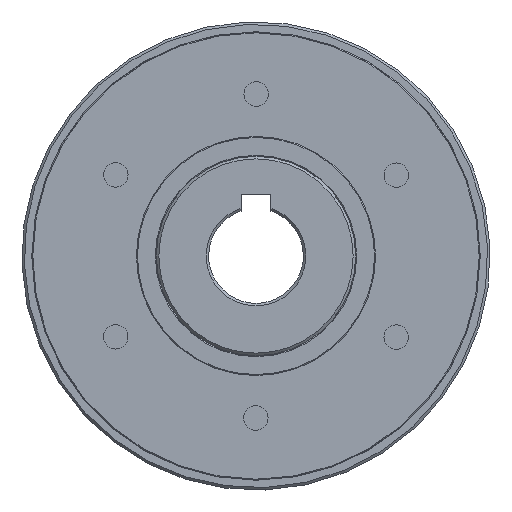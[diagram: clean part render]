
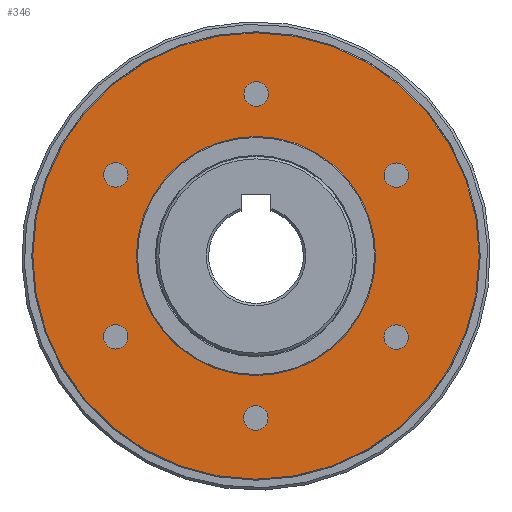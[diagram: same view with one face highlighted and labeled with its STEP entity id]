
A CAD part, left-side view. The second image highlights one B-rep face of the part: STEP entity #346.
In plain terms, the highlighted planar face has unit normal (-1, 0, 0).
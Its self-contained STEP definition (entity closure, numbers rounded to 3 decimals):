
#346 = ADVANCED_FACE( '', ( #715, #716, #717, #718, #719, #720, #721, #722 ), #723, .T. );
#715 = FACE_BOUND( '', #1119, .T. );
#716 = FACE_BOUND( '', #1120, .T. );
#717 = FACE_BOUND( '', #1121, .T. );
#718 = FACE_BOUND( '', #1122, .T. );
#719 = FACE_BOUND( '', #1123, .T. );
#720 = FACE_BOUND( '', #1124, .T. );
#721 = FACE_OUTER_BOUND( '', #1125, .T. );
#722 = FACE_BOUND( '', #1126, .T. );
#723 = PLANE( '', #1127 );
#1119 = EDGE_LOOP( '', ( #1621 ) );
#1120 = EDGE_LOOP( '', ( #1622 ) );
#1121 = EDGE_LOOP( '', ( #1623 ) );
#1122 = EDGE_LOOP( '', ( #1624 ) );
#1123 = EDGE_LOOP( '', ( #1625 ) );
#1124 = EDGE_LOOP( '', ( #1626 ) );
#1125 = EDGE_LOOP( '', ( #1627 ) );
#1126 = EDGE_LOOP( '', ( #1628 ) );
#1127 = AXIS2_PLACEMENT_3D( '', #1629, #1630, #1631 );
#1621 = ORIENTED_EDGE( '', *, *, #1958, .T. );
#1622 = ORIENTED_EDGE( '', *, *, #2005, .T. );
#1623 = ORIENTED_EDGE( '', *, *, #1952, .T. );
#1624 = ORIENTED_EDGE( '', *, *, #1918, .T. );
#1625 = ORIENTED_EDGE( '', *, *, #2006, .T. );
#1626 = ORIENTED_EDGE( '', *, *, #1978, .T. );
#1627 = ORIENTED_EDGE( '', *, *, #2007, .T. );
#1628 = ORIENTED_EDGE( '', *, *, #1981, .F. );
#1629 = CARTESIAN_POINT( '', ( 18.5, 0., 24. ) );
#1630 = DIRECTION( '', ( -1., 0., 0. ) );
#1631 = DIRECTION( '', ( 0., 0., 1. ) );
#1918 = EDGE_CURVE( '', #2163, #2163, #2164, .T. );
#1952 = EDGE_CURVE( '', #2215, #2215, #2216, .T. );
#1958 = EDGE_CURVE( '', #2224, #2224, #2225, .T. );
#1978 = EDGE_CURVE( '', #2254, #2254, #2255, .T. );
#1981 = EDGE_CURVE( '', #2259, #2259, #2260, .T. );
#2005 = EDGE_CURVE( '', #2294, #2294, #2295, .T. );
#2006 = EDGE_CURVE( '', #2296, #2296, #2297, .T. );
#2007 = EDGE_CURVE( '', #2298, #2298, #2299, .T. );
#2163 = VERTEX_POINT( '', #2660 );
#2164 = CIRCLE( '', #2661, 2.459 );
#2215 = VERTEX_POINT( '', #2715 );
#2216 = CIRCLE( '', #2716, 2.459 );
#2224 = VERTEX_POINT( '', #2724 );
#2225 = CIRCLE( '', #2725, 2.459 );
#2254 = VERTEX_POINT( '', #2805 );
#2255 = CIRCLE( '', #2806, 2.459 );
#2259 = VERTEX_POINT( '', #2810 );
#2260 = CIRCLE( '', #2811, 24. );
#2294 = VERTEX_POINT( '', #2854 );
#2295 = CIRCLE( '', #2855, 2.459 );
#2296 = VERTEX_POINT( '', #2856 );
#2297 = CIRCLE( '', #2857, 2.459 );
#2298 = VERTEX_POINT( '', #2858 );
#2299 = CIRCLE( '', #2859, 44.8 );
#2660 = CARTESIAN_POINT( '', ( 18.5, -30.275, -17.479 ) );
#2661 = AXIS2_PLACEMENT_3D( '', #3134, #3135, #3136 );
#2715 = CARTESIAN_POINT( '', ( 18.5, 0., -34.959 ) );
#2716 = AXIS2_PLACEMENT_3D( '', #3188, #3189, #3190 );
#2724 = CARTESIAN_POINT( '', ( 18.5, 30.275, 17.479 ) );
#2725 = AXIS2_PLACEMENT_3D( '', #3197, #3198, #3199 );
#2805 = CARTESIAN_POINT( '', ( 18.5, 0., 34.959 ) );
#2806 = AXIS2_PLACEMENT_3D( '', #3224, #3225, #3226 );
#2810 = CARTESIAN_POINT( '', ( 18.5, 0., 24. ) );
#2811 = AXIS2_PLACEMENT_3D( '', #3230, #3231, #3232 );
#2854 = CARTESIAN_POINT( '', ( 18.5, 30.275, -17.479 ) );
#2855 = AXIS2_PLACEMENT_3D( '', #3260, #3261, #3262 );
#2856 = CARTESIAN_POINT( '', ( 18.5, -30.275, 17.479 ) );
#2857 = AXIS2_PLACEMENT_3D( '', #3263, #3264, #3265 );
#2858 = CARTESIAN_POINT( '', ( 18.5, 0., 44.8 ) );
#2859 = AXIS2_PLACEMENT_3D( '', #3266, #3267, #3268 );
#3134 = CARTESIAN_POINT( '', ( 18.5, -28.146, -16.25 ) );
#3135 = DIRECTION( '', ( 1., 0., 0. ) );
#3136 = DIRECTION( '', ( 0., -0.866, -0.5 ) );
#3188 = CARTESIAN_POINT( '', ( 18.5, 0., -32.5 ) );
#3189 = DIRECTION( '', ( 1., 0., 0. ) );
#3190 = DIRECTION( '', ( 0., 0., -1. ) );
#3197 = CARTESIAN_POINT( '', ( 18.5, 28.146, 16.25 ) );
#3198 = DIRECTION( '', ( 1., 0., 0. ) );
#3199 = DIRECTION( '', ( 0., 0.866, 0.5 ) );
#3224 = CARTESIAN_POINT( '', ( 18.5, 0., 32.5 ) );
#3225 = DIRECTION( '', ( 1., 0., 0. ) );
#3226 = DIRECTION( '', ( 0., 0., 1. ) );
#3230 = CARTESIAN_POINT( '', ( 18.5, 0., 0. ) );
#3231 = DIRECTION( '', ( -1., 0., 0. ) );
#3232 = DIRECTION( '', ( 0., 0., 1. ) );
#3260 = CARTESIAN_POINT( '', ( 18.5, 28.146, -16.25 ) );
#3261 = DIRECTION( '', ( 1., 0., 0. ) );
#3262 = DIRECTION( '', ( 0., 0.866, -0.5 ) );
#3263 = CARTESIAN_POINT( '', ( 18.5, -28.146, 16.25 ) );
#3264 = DIRECTION( '', ( 1., 0., 0. ) );
#3265 = DIRECTION( '', ( 0., -0.866, 0.5 ) );
#3266 = CARTESIAN_POINT( '', ( 18.5, 0., 0. ) );
#3267 = DIRECTION( '', ( -1., 0., 0. ) );
#3268 = DIRECTION( '', ( 0., 0., 1. ) );
